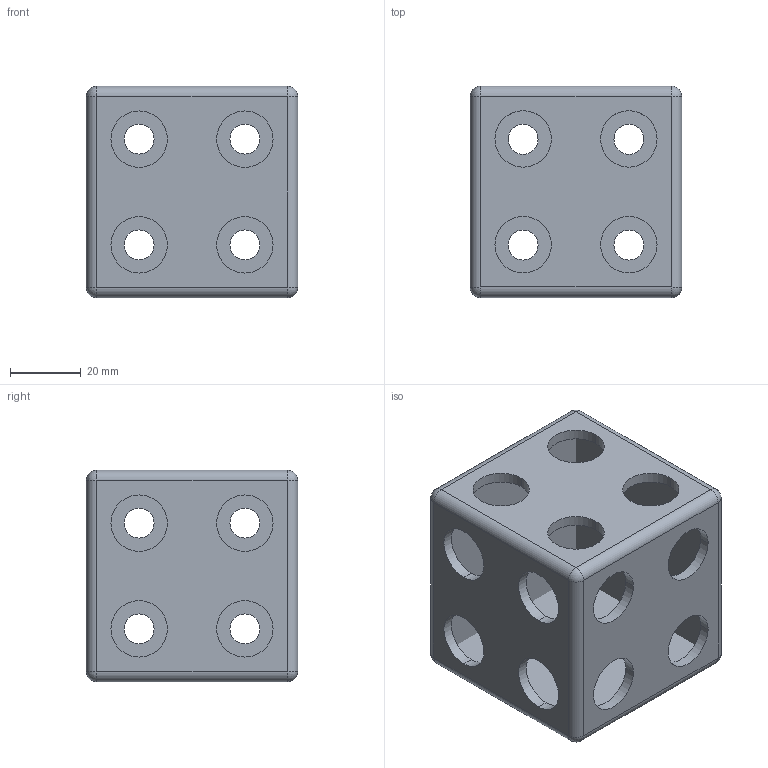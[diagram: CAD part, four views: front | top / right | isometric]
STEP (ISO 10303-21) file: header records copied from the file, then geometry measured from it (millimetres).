
FILE_DESCRIPTION (( 'STEP AP214' ), '1' );
FILE_NAME ('6060-3.STEP', '2020-06-17T04:59:12', ( '' ), ( '' ), 'SwSTEP 2.0', 'SolidWorks 2018', '' );
FILE_SCHEMA (( 'AUTOMOTIVE_DESIGN' ));
Length unit declared in the file: millimetre
Products named in the file (3): 6060-3.02; 6060-3.01; 6060-3
Assembly tree (6 placements, depth 2):
  6060-3
    6060-3.01  x3
    6060-3.02  x3
Bounding box: 60 x 60 x 60 mm (x, y, z)
Volume: 49879.7 mm3; surface area: 40760.2 mm2
Topology: 6 solids, 6 shells, 114 faces, 306 edges, 180 vertices
Faces by surface type: cylinder 78, sphere 24, plane 12
Entity records: 1332 total; most frequent: DIRECTION 248, CARTESIAN_POINT 201, ORIENTED_EDGE 188, AXIS2_PLACEMENT_3D 107, EDGE_CURVE 94, VERTEX_POINT 60, CIRCLE 60, EDGE_LOOP 56
